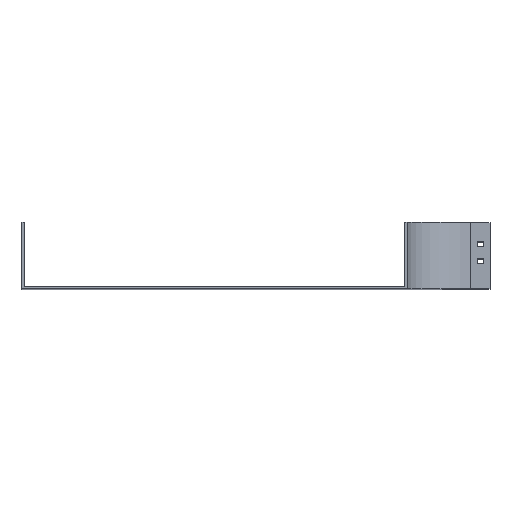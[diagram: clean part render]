
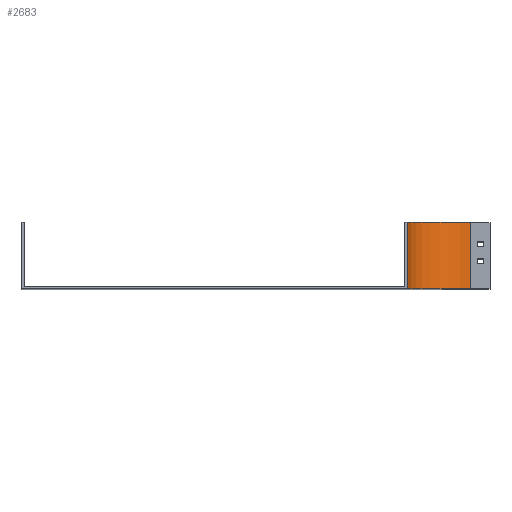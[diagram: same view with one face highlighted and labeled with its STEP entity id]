
A CAD part, top view. The second image highlights one B-rep face of the part: STEP entity #2683.
In plain terms, the highlighted cylindrical face has radius 100 mm (diameter 200 mm), a partial arc.
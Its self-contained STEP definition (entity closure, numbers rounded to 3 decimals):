
#31 = DIRECTION ( 'NONE',  ( 0., -1., 0. ) ) ;
#84 = CARTESIAN_POINT ( 'NONE',  ( 0., 0., 0. ) ) ;
#118 = ORIENTED_EDGE ( 'NONE', *, *, #2564, .T. ) ;
#143 = CARTESIAN_POINT ( 'NONE',  ( -100., 104., 0. ) ) ;
#174 = CARTESIAN_POINT ( 'NONE',  ( 0., 104., -100. ) ) ;
#176 = VERTEX_POINT ( 'NONE', #1657 ) ;
#294 = CARTESIAN_POINT ( 'NONE',  ( 0., 104., 0. ) ) ;
#341 = CARTESIAN_POINT ( 'NONE',  ( -100., 0., 0. ) ) ;
#381 = VERTEX_POINT ( 'NONE', #341 ) ;
#435 = AXIS2_PLACEMENT_3D ( 'NONE', #294, #717, #2433 ) ;
#439 = CARTESIAN_POINT ( 'NONE',  ( 0., 104., 0. ) ) ;
#461 = VERTEX_POINT ( 'NONE', #2450 ) ;
#540 = DIRECTION ( 'NONE',  ( 0., -1., 0. ) ) ;
#572 = DIRECTION ( 'NONE',  ( 0., -1., 0. ) ) ;
#696 = AXIS2_PLACEMENT_3D ( 'NONE', #84, #540, #955 ) ;
#717 = DIRECTION ( 'NONE',  ( 0., -1., 0. ) ) ;
#791 = ORIENTED_EDGE ( 'NONE', *, *, #1581, .T. ) ;
#815 = LINE ( 'NONE', #174, #857 ) ;
#857 = VECTOR ( 'NONE', #572, 1000. ) ;
#955 = DIRECTION ( 'NONE',  ( 0., 0., -1. ) ) ;
#997 = DIRECTION ( 'NONE',  ( 0., -1., 0. ) ) ;
#1045 = EDGE_CURVE ( 'NONE', #176, #2526, #1591, .T. ) ;
#1326 = FACE_OUTER_BOUND ( 'NONE', #2261, .T. ) ;
#1581 = EDGE_CURVE ( 'NONE', #381, #461, #1891, .T. ) ;
#1591 = CIRCLE ( 'NONE', #435, 100. ) ;
#1629 = ORIENTED_EDGE ( 'NONE', *, *, #2472, .F. ) ;
#1657 = CARTESIAN_POINT ( 'NONE',  ( -100., 104., 0. ) ) ;
#1658 = CARTESIAN_POINT ( 'NONE',  ( 0., 104., -100. ) ) ;
#1767 = AXIS2_PLACEMENT_3D ( 'NONE', #439, #31, #2130 ) ;
#1891 = CIRCLE ( 'NONE', #696, 100. ) ;
#2008 = ORIENTED_EDGE ( 'NONE', *, *, #1045, .F. ) ;
#2130 = DIRECTION ( 'NONE',  ( 0., 0., -1. ) ) ;
#2254 = LINE ( 'NONE', #143, #2511 ) ;
#2261 = EDGE_LOOP ( 'NONE', ( #791, #1629, #2008, #118 ) ) ;
#2350 = CYLINDRICAL_SURFACE ( 'NONE', #1767, 100. ) ;
#2433 = DIRECTION ( 'NONE',  ( 0., 0., -1. ) ) ;
#2450 = CARTESIAN_POINT ( 'NONE',  ( 0., 0., -100. ) ) ;
#2472 = EDGE_CURVE ( 'NONE', #2526, #461, #815, .T. ) ;
#2511 = VECTOR ( 'NONE', #997, 1000. ) ;
#2526 = VERTEX_POINT ( 'NONE', #1658 ) ;
#2564 = EDGE_CURVE ( 'NONE', #176, #381, #2254, .T. ) ;
#2683 = ADVANCED_FACE ( 'NONE', ( #1326 ), #2350, .F. ) ;
